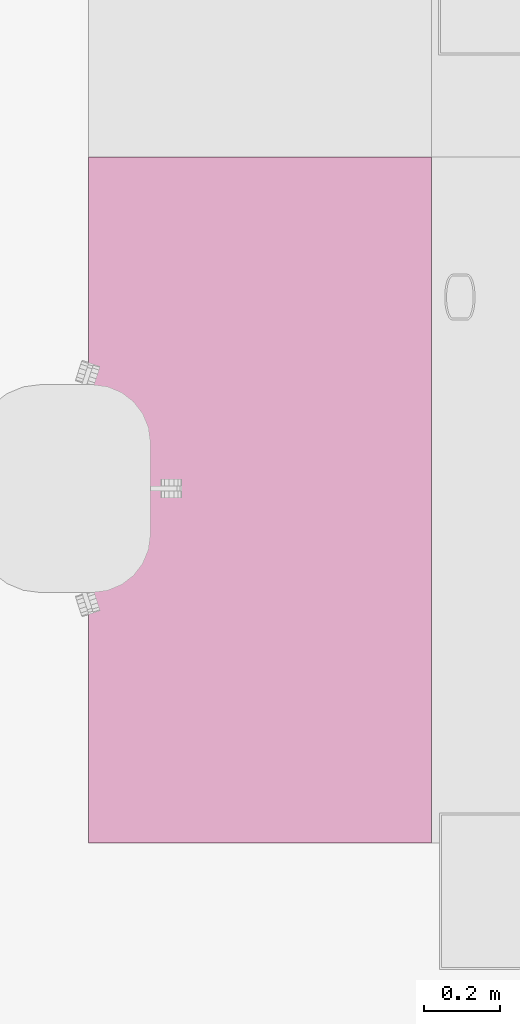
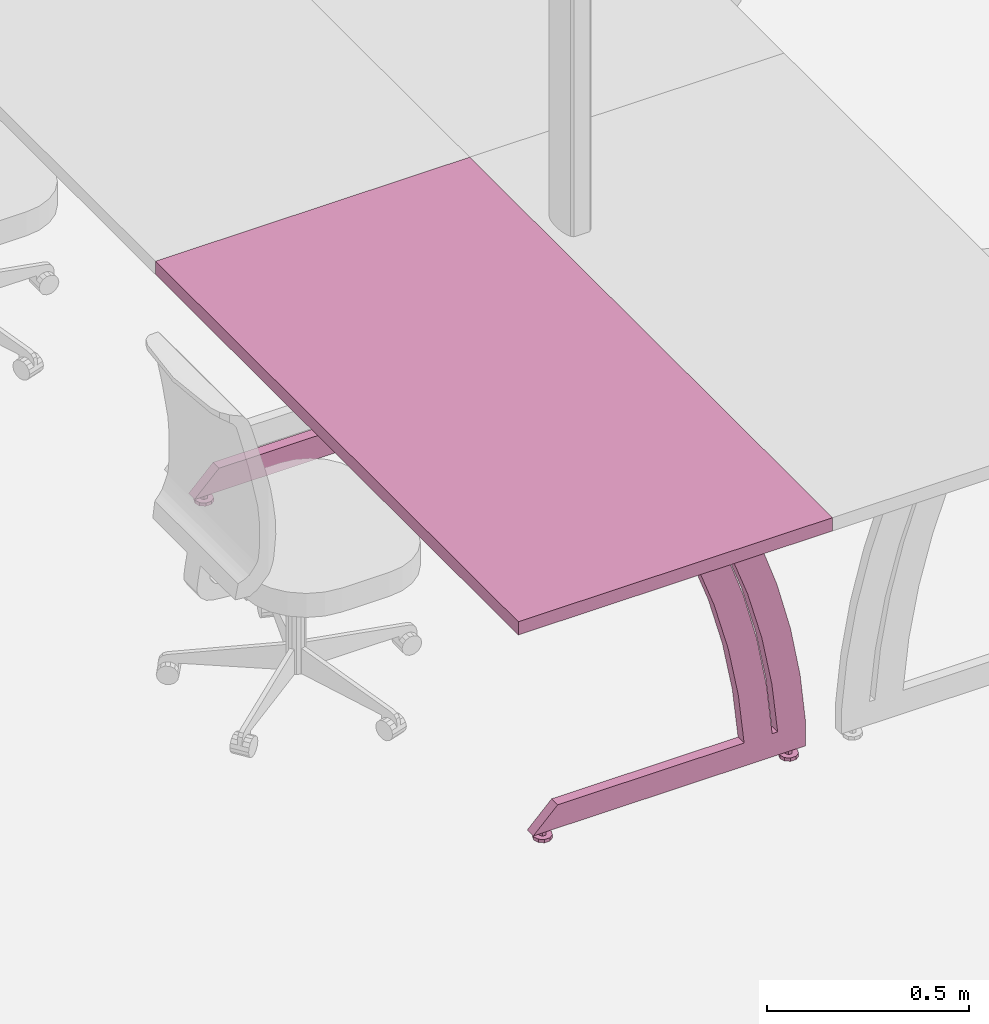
# One storey, part 99 of 128: 1 furnishing.
"""IFC2X3 building model written with IfcOpenShell, lengths in metres."""

from ifc_helpers import new_model, entity, si_unit, converted_unit, derived_unit, direction, frame, origin, place, context, subcontext, project, spatial, faceted_brep, source, transform, mapped, material, type_object, type_shapes, element, save


model = new_model("IFC2X3")

# Units and contexts
model_context = context("Model", 3, precision=1e-05, world=origin(), true_north=direction((6.123031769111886e-17, 1.0)))
body_context = subcontext(model_context, "Body", "Model", "MODEL_VIEW")
ifc_project = project(units=[si_unit("LENGTHUNIT", "METRE"), si_unit("AREAUNIT", "SQUARE_METRE"), converted_unit("PLANEANGLEUNIT", "DEGREE", entity("IfcPlaneAngleMeasure", 0.017453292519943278), si_unit("PLANEANGLEUNIT", "RADIAN"), dimensions=[0, 0, 0, 0, 0, 0, 0]), derived_unit("THERMALTRANSMITTANCEUNIT", [(si_unit("MASSUNIT", "GRAM", prefix="KILO"), 1), (si_unit("THERMODYNAMICTEMPERATUREUNIT", "KELVIN"), -1), (si_unit("TIMEUNIT", "SECOND"), -3)])], contexts=[model_context])

# Site, building, storey
site_placement = place(None, origin())
site = spatial("IfcSite", under=ifc_project, at=site_placement, Name="Default", CompositionType="ELEMENT")
building_placement = place(site_placement, origin())
building = spatial("IfcBuilding", under=site, at=building_placement, CompositionType="ELEMENT")
storey_placement = place(building_placement, origin())
storey = spatial("IfcBuildingStorey", under=building, at=storey_placement, Name="00_RDC CAF", CompositionType="ELEMENT", Elevation=2.4982504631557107e-13)

# Furnishing
ifc_material = material(Name="ARC - Mo - Blanc")
furniture_type = type_object("IfcFurnitureType", Name="Mo_Bureau:Mo_Bureau_1800x900mm", AssemblyPlace="NOTDEFINED", material=ifc_material)
shared_shape = source(origin(), body_context, "Body", "Brep", [
    faceted_brep([(0.05999999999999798, -0.7962325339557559, 0.0), (0.03622358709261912, -0.7885071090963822, 0.0), (0.0407644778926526, -0.7822571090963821, 0.0), (0.045305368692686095, -0.7760071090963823, 0.0), (0.05265268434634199, -0.7736198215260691, 0.0), (0.05999999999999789, -0.7712325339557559, 0.0), (0.0673473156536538, -0.7736198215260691, 0.0), (0.03622358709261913, -0.7962325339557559, 0.0), (0.03622358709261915, -0.8039579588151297, 0.0), (0.040764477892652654, -0.8102079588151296, 0.0), (0.04530536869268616, -0.8164579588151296, 0.0), (0.052652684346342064, -0.8188452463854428, 0.0), (0.05999999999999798, -0.8212325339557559, 0.0), (0.07469463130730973, -0.7760071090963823, 0.0), (0.07923552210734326, -0.7822571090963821, 0.0), (0.08377641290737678, -0.7885071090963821, 0.0), (0.08377641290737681, -0.7962325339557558, 0.0), (0.06734731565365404, -0.8188452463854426, 0.0), (0.07469463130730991, -0.8164579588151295, 0.0), (0.0792355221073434, -0.8102079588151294, 0.0), (0.08377641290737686, -0.8039579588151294, 0.0), (0.05999999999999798, -0.7962325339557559, 0.024999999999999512), (0.059999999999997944, -0.7862325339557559, 0.024999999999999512), (0.05133974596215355, -0.791232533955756, 0.024999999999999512), (0.05133974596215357, -0.801232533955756, 0.024999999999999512), (0.05999999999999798, -0.8062325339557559, 0.024999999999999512), (0.06866025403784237, -0.7912325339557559, 0.024999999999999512), (0.06866025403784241, -0.8012325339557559, 0.024999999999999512), (0.05133974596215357, -0.801232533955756, 0.01000000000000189), (0.05999999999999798, -0.8062325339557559, 0.01000000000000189), (0.05133974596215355, -0.791232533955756, 0.01000000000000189), (0.05999999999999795, -0.7862325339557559, 0.01000000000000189), (0.06866025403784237, -0.7912325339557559, 0.01000000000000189), (0.06866025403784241, -0.8012325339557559, 0.01000000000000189), (0.0599999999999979, -0.7712325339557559, 0.01000000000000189), (0.05554606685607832, -0.77267970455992, 0.01000000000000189), (0.05109213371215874, -0.774126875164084, 0.01000000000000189), (0.045305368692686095, -0.7760071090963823, 0.01000000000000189), (0.0673473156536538, -0.7736198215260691, 0.01000000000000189), (0.07469463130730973, -0.7760071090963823, 0.01000000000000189), (0.07923552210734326, -0.7822571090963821, 0.01000000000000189), (0.08377641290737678, -0.7885071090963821, 0.01000000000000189), (0.08377641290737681, -0.7962325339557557, 0.01000000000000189), (0.08377641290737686, -0.8039579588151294, 0.01000000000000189), (0.0792355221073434, -0.8102079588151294, 0.01000000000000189), (0.07469463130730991, -0.8164579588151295, 0.01000000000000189), (0.0689078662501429, -0.8183381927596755, 0.01000000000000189), (0.06445393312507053, -0.8197853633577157, 0.01000000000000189), (0.05999999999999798, -0.8212325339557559, 0.01000000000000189), (0.052652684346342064, -0.8188452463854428, 0.01000000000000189), (0.04530536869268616, -0.8164579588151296, 0.01000000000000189), (0.03622358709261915, -0.8039579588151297, 0.01000000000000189), (0.040764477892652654, -0.8102079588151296, 0.01000000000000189), (0.04076447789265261, -0.7822571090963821, 0.01000000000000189), (0.03622358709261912, -0.7885071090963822, 0.01000000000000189), (0.03622358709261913, -0.7962325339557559, 0.01000000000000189)], [[[0, 1, 2]], [[0, 2, 3]], [[0, 3, 4]], [[0, 4, 5]], [[0, 5, 6]], [[0, 7, 1]], [[0, 8, 7]], [[0, 9, 8]], [[0, 10, 9]], [[0, 11, 10]], [[0, 12, 11]], [[0, 6, 13]], [[0, 13, 14]], [[0, 14, 15]], [[0, 15, 16]], [[0, 17, 12]], [[0, 18, 17]], [[0, 19, 18]], [[0, 20, 19]], [[0, 16, 20]], [[21, 22, 23]], [[23, 24, 21]], [[24, 25, 21]], [[21, 26, 22]], [[25, 27, 21]], [[26, 21, 27]], [[25, 24, 28, 29]], [[24, 23, 30, 28]], [[23, 22, 31, 30]], [[22, 26, 32, 31]], [[26, 27, 33, 32]], [[27, 25, 29, 33]], [[31, 34, 35]], [[31, 35, 36]], [[31, 36, 37]], [[31, 37, 30]], [[31, 38, 34]], [[31, 39, 38]], [[32, 39, 31]], [[32, 40, 39]], [[32, 41, 40]], [[32, 42, 41]], [[32, 43, 42]], [[32, 33, 43]], [[33, 44, 43]], [[33, 45, 44]], [[33, 29, 45]], [[29, 46, 45]], [[29, 47, 46]], [[29, 48, 47]], [[29, 49, 48]], [[29, 50, 49]], [[29, 28, 50]], [[30, 51, 28]], [[28, 51, 52]], [[28, 52, 50]], [[30, 37, 53]], [[30, 53, 54]], [[30, 54, 55]], [[30, 55, 51]], [[11, 12, 48, 49, 50, 10]], [[8, 9, 10, 50, 52, 51]], [[7, 8, 51, 55, 54, 1]], [[3, 37, 36, 35, 34, 5, 4]], [[54, 53, 37, 3, 2, 1]], [[6, 5, 34, 38, 39, 13]], [[15, 14, 13, 39, 40, 41]], [[16, 15, 41, 42, 43, 20]], [[18, 45, 46, 47, 48, 12, 17]], [[43, 44, 45, 18, 19, 20]]]),
    faceted_brep([(0.05999999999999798, -0.09132706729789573, 0.0), (0.03622358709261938, -0.0836016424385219, 0.0), (0.04076447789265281, -0.07735164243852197, 0.0), (0.04530536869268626, -0.07110164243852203, 0.0), (0.052652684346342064, -0.06871435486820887, 0.0), (0.05999999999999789, -0.06632706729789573, 0.0), (0.06734731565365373, -0.06871435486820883, 0.0), (0.03622358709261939, -0.0913270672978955, 0.0), (0.0362235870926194, -0.09905249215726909, 0.0), (0.04076447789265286, -0.10530249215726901, 0.0), (0.04530536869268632, -0.11155249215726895, 0.0), (0.05265268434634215, -0.11393977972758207, 0.0), (0.05999999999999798, -0.11632706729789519, 0.0), (0.07469463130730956, -0.07110164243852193, 0.0), (0.07923552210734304, -0.07735164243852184, 0.0), (0.08377641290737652, -0.08360164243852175, 0.0), (0.08377641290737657, -0.09132706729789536, 0.0), (0.06734731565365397, -0.113939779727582, 0.0), (0.07469463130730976, -0.11155249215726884, 0.0), (0.07923552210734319, -0.10530249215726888, 0.0), (0.0837764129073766, -0.09905249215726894, 0.0), (0.05999999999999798, -0.09132706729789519, 0.024999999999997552), (0.059999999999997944, -0.0813270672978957, 0.024999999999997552), (0.051339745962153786, -0.08632706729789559, 0.024999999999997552), (0.05133974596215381, -0.09632706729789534, 0.024999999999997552), (0.05999999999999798, -0.10132706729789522, 0.024999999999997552), (0.06866025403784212, -0.08632706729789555, 0.024999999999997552), (0.06866025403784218, -0.09632706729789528, 0.024999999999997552), (0.05133974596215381, -0.09632706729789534, 0.009999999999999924), (0.05999999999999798, -0.10132706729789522, 0.009999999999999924), (0.051339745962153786, -0.08632706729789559, 0.009999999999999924), (0.05999999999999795, -0.0813270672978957, 0.009999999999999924), (0.06866025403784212, -0.08632706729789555, 0.009999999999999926), (0.06866025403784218, -0.09632706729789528, 0.009999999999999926), (0.05999999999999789, -0.06632706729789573, 0.009999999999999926), (0.055546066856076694, -0.06777423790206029, 0.009999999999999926), (0.051092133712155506, -0.06922140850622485, 0.009999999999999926), (0.04530536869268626, -0.07110164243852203, 0.009999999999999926), (0.06734731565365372, -0.06871435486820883, 0.009999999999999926), (0.07469463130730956, -0.07110164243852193, 0.009999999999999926), (0.07923552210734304, -0.07735164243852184, 0.009999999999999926), (0.08377641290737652, -0.08360164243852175, 0.009999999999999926), (0.08377641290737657, -0.09132706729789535, 0.009999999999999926), (0.0837764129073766, -0.09905249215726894, 0.009999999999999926), (0.07923552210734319, -0.10530249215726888, 0.009999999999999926), (0.07469463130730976, -0.11155249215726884, 0.009999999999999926), (0.06890786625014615, -0.11343272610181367, 0.009999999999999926), (0.06445393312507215, -0.11487989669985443, 0.009999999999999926), (0.05999999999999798, -0.11632706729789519, 0.009999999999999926), (0.05265268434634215, -0.11393977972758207, 0.009999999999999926), (0.04530536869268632, -0.11155249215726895, 0.009999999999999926), (0.0362235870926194, -0.09905249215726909, 0.009999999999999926), (0.04076447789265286, -0.10530249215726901, 0.009999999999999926), (0.04076447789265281, -0.07735164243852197, 0.009999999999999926), (0.03622358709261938, -0.0836016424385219, 0.009999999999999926), (0.03622358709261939, -0.0913270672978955, 0.009999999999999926)], [[[0, 1, 2]], [[0, 2, 3]], [[0, 3, 4]], [[0, 4, 5]], [[0, 5, 6]], [[0, 7, 1]], [[0, 8, 7]], [[0, 9, 8]], [[0, 10, 9]], [[0, 11, 10]], [[0, 12, 11]], [[0, 6, 13]], [[0, 13, 14]], [[0, 14, 15]], [[0, 15, 16]], [[0, 17, 12]], [[0, 18, 17]], [[0, 19, 18]], [[0, 20, 19]], [[0, 16, 20]], [[21, 22, 23]], [[23, 24, 21]], [[24, 25, 21]], [[21, 26, 22]], [[25, 27, 21]], [[26, 21, 27]], [[25, 24, 28, 29]], [[24, 23, 30, 28]], [[23, 22, 31, 30]], [[22, 26, 32, 31]], [[26, 27, 33, 32]], [[27, 25, 29, 33]], [[31, 34, 35]], [[31, 35, 36]], [[31, 36, 37]], [[31, 37, 30]], [[31, 38, 34]], [[31, 39, 38]], [[32, 39, 31]], [[32, 40, 39]], [[32, 41, 40]], [[32, 42, 41]], [[32, 43, 42]], [[32, 33, 43]], [[33, 44, 43]], [[33, 45, 44]], [[33, 29, 45]], [[29, 46, 45]], [[29, 47, 46]], [[29, 48, 47]], [[29, 49, 48]], [[29, 50, 49]], [[29, 28, 50]], [[30, 51, 28]], [[28, 51, 52]], [[28, 52, 50]], [[30, 37, 53]], [[30, 53, 54]], [[30, 54, 55]], [[30, 55, 51]], [[11, 12, 48, 49, 50, 10]], [[8, 9, 10, 50, 52, 51]], [[7, 8, 51, 55, 54, 1]], [[3, 37, 36, 35, 34, 5, 4]], [[54, 53, 37, 3, 2, 1]], [[6, 5, 34, 38, 39, 13]], [[15, 14, 13, 39, 40, 41]], [[16, 15, 41, 42, 43, 20]], [[18, 45, 46, 47, 48, 12, 17]], [[43, 44, 45, 18, 19, 20]]]),
    faceted_brep([(0.04499999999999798, -0.22742160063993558, 0.0950000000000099), (0.04499999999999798, -0.24409269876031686, 0.24614112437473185), (0.04499999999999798, -0.27271442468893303, 0.3954808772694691), (0.04499999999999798, -0.3131059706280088, 0.5420758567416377), (0.04499999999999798, -0.3650121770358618, 0.6849999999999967), (0.04499999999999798, -0.2788721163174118, 0.6849999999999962), (0.04499999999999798, -0.2291924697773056, 0.5416912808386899), (0.04499999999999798, -0.1905543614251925, 0.39501969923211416), (0.04499999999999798, -0.16318154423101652, 0.245834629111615), (0.04499999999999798, -0.14723253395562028, 0.09500000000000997), (0.07499999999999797, -0.3650121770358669, 0.6850000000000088), (0.07499999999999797, -0.3131059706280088, 0.5420758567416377), (0.07499999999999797, -0.27271442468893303, 0.3954808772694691), (0.07499999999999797, -0.24409269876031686, 0.24614112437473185), (0.07499999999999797, -0.22742160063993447, 0.09499999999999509), (0.07499999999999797, -0.14723253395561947, 0.0949999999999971), (0.07499999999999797, -0.16318154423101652, 0.245834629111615), (0.07499999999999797, -0.1905543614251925, 0.39501969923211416), (0.07499999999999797, -0.2291924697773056, 0.5416912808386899), (0.07499999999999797, -0.27887211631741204, 0.6849999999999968)], [[[0, 1, 2, 3, 4, 5, 6, 7, 8, 9]], [[10, 11, 12, 13, 14, 15, 16, 17, 18, 19]], [[10, 19, 5, 4]], [[3, 11, 10, 4]], [[2, 12, 11, 3]], [[0, 14, 13, 1]], [[12, 2, 1, 13]], [[15, 14, 0, 9]], [[8, 7, 17, 16]], [[15, 9, 8, 16]], [[6, 5, 19, 18]], [[6, 18, 17, 7]]]),
    faceted_brep([(0.04499999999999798, -0.13142160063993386, 0.09500000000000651), (0.04499999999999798, -0.14809269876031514, 0.24614112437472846), (0.04499999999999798, -0.1767144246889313, 0.39548087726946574), (0.04499999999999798, -0.21710597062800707, 0.5420758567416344), (0.04499999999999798, -0.26901217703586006, 0.6849999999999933), (0.04499999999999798, -0.18287211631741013, 0.6849999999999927), (0.04499999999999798, -0.13319246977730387, 0.5416912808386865), (0.04499999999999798, -0.09455436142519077, 0.3950196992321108), (0.04499999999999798, -0.0671815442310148, 0.2458346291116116), (0.04499999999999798, -0.05123253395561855, 0.09500000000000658), (0.07499999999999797, -0.2690121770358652, 0.6850000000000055), (0.07499999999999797, -0.21710597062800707, 0.5420758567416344), (0.07499999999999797, -0.1767144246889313, 0.39548087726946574), (0.07499999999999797, -0.14809269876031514, 0.24614112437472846), (0.07499999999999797, -0.1314216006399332, 0.09499999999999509), (0.07499999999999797, -0.05123253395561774, 0.09499999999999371), (0.07499999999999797, -0.0671815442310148, 0.2458346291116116), (0.07499999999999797, -0.09455436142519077, 0.3950196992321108), (0.07499999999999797, -0.13319246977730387, 0.5416912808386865), (0.07499999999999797, -0.18287211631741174, 0.684999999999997)], [[[0, 1, 2, 3, 4, 5, 6, 7, 8, 9]], [[10, 11, 12, 13, 14, 15, 16, 17, 18, 19]], [[10, 19, 5, 4]], [[3, 11, 10, 4]], [[2, 12, 11, 3]], [[0, 14, 13, 1]], [[12, 2, 1, 13]], [[15, 14, 0, 9]], [[8, 7, 17, 16]], [[15, 9, 8, 16]], [[6, 5, 19, 18]], [[6, 18, 17, 7]]]),
    faceted_brep([(0.04499999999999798, -0.0512325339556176, 0.0249999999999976), (0.04499999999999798, -0.8312325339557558, 0.0249999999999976), (0.04499999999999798, -0.7612325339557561, 0.09499999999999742), (0.04499999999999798, -0.05123253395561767, 0.09499999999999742), (0.07499999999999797, -0.0512325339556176, 0.0249999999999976), (0.07499999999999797, -0.05123253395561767, 0.09499999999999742), (0.07499999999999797, -0.7612325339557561, 0.09499999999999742), (0.07499999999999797, -0.8312325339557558, 0.0249999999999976)], [[[0, 1, 2, 3]], [[4, 5, 6, 7]], [[5, 4, 0, 3]], [[6, 5, 3, 2]], [[4, 7, 1, 0]], [[7, 6, 2, 1]]]),
    faceted_brep([(1.7399999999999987, -0.7962325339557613, 0.0), (1.71622358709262, -0.7885071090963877, 0.0), (1.7207644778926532, -0.7822571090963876, 0.0), (1.7253053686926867, -0.7760071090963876, 0.0), (1.7326526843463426, -0.7736198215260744, 0.0), (1.7399999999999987, -0.7712325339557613, 0.0), (1.7473473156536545, -0.7736198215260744, 0.0), (1.71622358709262, -0.7962325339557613, 0.0), (1.71622358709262, -0.803957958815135, 0.0), (1.7207644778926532, -0.8102079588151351, 0.0), (1.725305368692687, -0.816457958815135, 0.0), (1.7326526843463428, -0.8188452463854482, 0.0), (1.7399999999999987, -0.8212325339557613, 0.0), (1.7546946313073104, -0.7760071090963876, 0.0), (1.759235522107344, -0.7822571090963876, 0.0), (1.7637764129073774, -0.7885071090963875, 0.0), (1.7637764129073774, -0.7962325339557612, 0.0), (1.7473473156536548, -0.8188452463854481, 0.0), (1.7546946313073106, -0.8164579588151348, 0.0), (1.759235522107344, -0.8102079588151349, 0.0), (1.7637764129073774, -0.8039579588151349, 0.0), (1.7399999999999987, -0.7962325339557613, 0.024999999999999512), (1.7399999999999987, -0.7862325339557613, 0.024999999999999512), (1.731339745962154, -0.7912325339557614, 0.024999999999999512), (1.731339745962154, -0.8012325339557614, 0.024999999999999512), (1.7399999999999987, -0.8062325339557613, 0.024999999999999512), (1.748660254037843, -0.7912325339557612, 0.024999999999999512), (1.748660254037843, -0.8012325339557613, 0.024999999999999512), (1.731339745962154, -0.8012325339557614, 0.01000000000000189), (1.7399999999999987, -0.8062325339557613, 0.01000000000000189), (1.731339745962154, -0.7912325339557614, 0.01000000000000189), (1.7399999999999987, -0.7862325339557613, 0.01000000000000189), (1.748660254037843, -0.7912325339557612, 0.01000000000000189), (1.748660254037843, -0.8012325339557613, 0.01000000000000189), (1.7399999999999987, -0.7712325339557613, 0.01000000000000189), (1.735546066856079, -0.7726797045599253, 0.01000000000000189), (1.7310921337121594, -0.7741268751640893, 0.01000000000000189), (1.7253053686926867, -0.7760071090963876, 0.01000000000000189), (1.7473473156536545, -0.7736198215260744, 0.01000000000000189), (1.7546946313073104, -0.7760071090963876, 0.01000000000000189), (1.759235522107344, -0.7822571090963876, 0.01000000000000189), (1.7637764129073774, -0.7885071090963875, 0.01000000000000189), (1.7637764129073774, -0.7962325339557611, 0.01000000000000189), (1.7637764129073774, -0.8039579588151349, 0.01000000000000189), (1.759235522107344, -0.8102079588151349, 0.01000000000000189), (1.7546946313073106, -0.8164579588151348, 0.01000000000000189), (1.7489078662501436, -0.8183381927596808, 0.01000000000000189), (1.744453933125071, -0.8197853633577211, 0.01000000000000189), (1.7399999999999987, -0.8212325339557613, 0.01000000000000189), (1.7326526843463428, -0.8188452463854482, 0.01000000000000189), (1.725305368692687, -0.816457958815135, 0.01000000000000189), (1.71622358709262, -0.803957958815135, 0.01000000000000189), (1.7207644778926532, -0.8102079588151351, 0.01000000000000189), (1.7207644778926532, -0.7822571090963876, 0.01000000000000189), (1.71622358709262, -0.7885071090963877, 0.01000000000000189), (1.71622358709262, -0.7962325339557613, 0.01000000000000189)], [[[0, 1, 2]], [[0, 2, 3]], [[0, 3, 4]], [[0, 4, 5]], [[0, 5, 6]], [[0, 7, 1]], [[0, 8, 7]], [[0, 9, 8]], [[0, 10, 9]], [[0, 11, 10]], [[0, 12, 11]], [[0, 6, 13]], [[0, 13, 14]], [[0, 14, 15]], [[0, 15, 16]], [[0, 17, 12]], [[0, 18, 17]], [[0, 19, 18]], [[0, 20, 19]], [[0, 16, 20]], [[21, 22, 23]], [[23, 24, 21]], [[24, 25, 21]], [[21, 26, 22]], [[25, 27, 21]], [[26, 21, 27]], [[25, 24, 28, 29]], [[24, 23, 30, 28]], [[23, 22, 31, 30]], [[22, 26, 32, 31]], [[26, 27, 33, 32]], [[27, 25, 29, 33]], [[31, 34, 35]], [[31, 35, 36]], [[31, 36, 37]], [[31, 37, 30]], [[31, 38, 34]], [[31, 39, 38]], [[32, 39, 31]], [[32, 40, 39]], [[32, 41, 40]], [[32, 42, 41]], [[32, 43, 42]], [[32, 33, 43]], [[33, 44, 43]], [[33, 45, 44]], [[33, 29, 45]], [[29, 46, 45]], [[29, 47, 46]], [[29, 48, 47]], [[29, 49, 48]], [[29, 50, 49]], [[29, 28, 50]], [[30, 51, 28]], [[28, 51, 52]], [[28, 52, 50]], [[30, 37, 53]], [[30, 53, 54]], [[30, 54, 55]], [[30, 55, 51]], [[11, 12, 48, 49, 50, 10]], [[8, 9, 10, 50, 52, 51]], [[7, 8, 51, 55, 54, 1]], [[3, 37, 36, 35, 34, 5, 4]], [[54, 53, 37, 3, 2, 1]], [[6, 5, 34, 38, 39, 13]], [[15, 14, 13, 39, 40, 41]], [[16, 15, 41, 42, 43, 20]], [[18, 45, 46, 47, 48, 12, 17]], [[43, 44, 45, 18, 19, 20]]]),
    faceted_brep([(1.7399999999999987, -0.09132706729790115, 0.0), (1.7162235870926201, -0.08360164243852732, 0.0), (1.7207644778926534, -0.07735164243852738, 0.0), (1.725305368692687, -0.07110164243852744, 0.0), (1.7326526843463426, -0.06871435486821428, 0.0), (1.7399999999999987, -0.06632706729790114, 0.0), (1.7473473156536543, -0.06871435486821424, 0.0), (1.7162235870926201, -0.09132706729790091, 0.0), (1.7162235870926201, -0.0990524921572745, 0.0), (1.7207644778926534, -0.10530249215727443, 0.0), (1.725305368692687, -0.11155249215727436, 0.0), (1.7326526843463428, -0.11393977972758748, 0.0), (1.7399999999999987, -0.1163270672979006, 0.0), (1.7546946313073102, -0.07110164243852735, 0.0), (1.7592355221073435, -0.07735164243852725, 0.0), (1.7637764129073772, -0.08360164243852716, 0.0), (1.7637764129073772, -0.09132706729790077, 0.0), (1.7473473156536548, -0.11393977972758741, 0.0), (1.7546946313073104, -0.11155249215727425, 0.0), (1.7592355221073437, -0.10530249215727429, 0.0), (1.7637764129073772, -0.09905249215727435, 0.0), (1.7399999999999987, -0.0913270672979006, 0.024999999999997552), (1.7399999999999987, -0.08132706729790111, 0.024999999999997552), (1.7313397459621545, -0.08632706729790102, 0.024999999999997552), (1.7313397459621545, -0.09632706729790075, 0.024999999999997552), (1.7399999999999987, -0.10132706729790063, 0.024999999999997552), (1.7486602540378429, -0.08632706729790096, 0.024999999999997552), (1.7486602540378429, -0.0963270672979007, 0.024999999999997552), (1.7313397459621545, -0.09632706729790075, 0.009999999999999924), (1.7399999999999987, -0.10132706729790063, 0.009999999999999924), (1.7313397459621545, -0.08632706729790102, 0.009999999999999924), (1.7399999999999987, -0.08132706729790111, 0.009999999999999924), (1.7486602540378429, -0.08632706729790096, 0.009999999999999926), (1.7486602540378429, -0.0963270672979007, 0.009999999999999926), (1.7399999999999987, -0.06632706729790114, 0.009999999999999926), (1.7355460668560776, -0.0677742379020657, 0.009999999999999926), (1.7310921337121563, -0.06922140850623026, 0.009999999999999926), (1.725305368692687, -0.07110164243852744, 0.009999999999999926), (1.7473473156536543, -0.06871435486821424, 0.009999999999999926), (1.7546946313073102, -0.07110164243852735, 0.009999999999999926), (1.7592355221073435, -0.07735164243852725, 0.009999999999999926), (1.7637764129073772, -0.08360164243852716, 0.009999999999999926), (1.7637764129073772, -0.09132706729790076, 0.009999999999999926), (1.7637764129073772, -0.09905249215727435, 0.009999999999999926), (1.7592355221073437, -0.10530249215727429, 0.009999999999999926), (1.7546946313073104, -0.11155249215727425, 0.009999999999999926), (1.7489078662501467, -0.11343272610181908, 0.009999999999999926), (1.7444539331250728, -0.11487989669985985, 0.009999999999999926), (1.7399999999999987, -0.1163270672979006, 0.009999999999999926), (1.7326526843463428, -0.11393977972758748, 0.009999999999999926), (1.725305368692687, -0.11155249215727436, 0.009999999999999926), (1.7162235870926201, -0.0990524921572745, 0.009999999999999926), (1.7207644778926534, -0.10530249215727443, 0.009999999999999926), (1.7207644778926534, -0.07735164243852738, 0.009999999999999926), (1.7162235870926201, -0.08360164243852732, 0.009999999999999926), (1.7162235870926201, -0.09132706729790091, 0.009999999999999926)], [[[0, 1, 2]], [[0, 2, 3]], [[0, 3, 4]], [[0, 4, 5]], [[0, 5, 6]], [[0, 7, 1]], [[0, 8, 7]], [[0, 9, 8]], [[0, 10, 9]], [[0, 11, 10]], [[0, 12, 11]], [[0, 6, 13]], [[0, 13, 14]], [[0, 14, 15]], [[0, 15, 16]], [[0, 17, 12]], [[0, 18, 17]], [[0, 19, 18]], [[0, 20, 19]], [[0, 16, 20]], [[21, 22, 23]], [[23, 24, 21]], [[24, 25, 21]], [[21, 26, 22]], [[25, 27, 21]], [[26, 21, 27]], [[25, 24, 28, 29]], [[24, 23, 30, 28]], [[23, 22, 31, 30]], [[22, 26, 32, 31]], [[26, 27, 33, 32]], [[27, 25, 29, 33]], [[31, 34, 35]], [[31, 35, 36]], [[31, 36, 37]], [[31, 37, 30]], [[31, 38, 34]], [[31, 39, 38]], [[32, 39, 31]], [[32, 40, 39]], [[32, 41, 40]], [[32, 42, 41]], [[32, 43, 42]], [[32, 33, 43]], [[33, 44, 43]], [[33, 45, 44]], [[33, 29, 45]], [[29, 46, 45]], [[29, 47, 46]], [[29, 48, 47]], [[29, 49, 48]], [[29, 50, 49]], [[29, 28, 50]], [[30, 51, 28]], [[28, 51, 52]], [[28, 52, 50]], [[30, 37, 53]], [[30, 53, 54]], [[30, 54, 55]], [[30, 55, 51]], [[11, 12, 48, 49, 50, 10]], [[8, 9, 10, 50, 52, 51]], [[7, 8, 51, 55, 54, 1]], [[3, 37, 36, 35, 34, 5, 4]], [[54, 53, 37, 3, 2, 1]], [[6, 5, 34, 38, 39, 13]], [[15, 14, 13, 39, 40, 41]], [[16, 15, 41, 42, 43, 20]], [[18, 45, 46, 47, 48, 12, 17]], [[43, 44, 45, 18, 19, 20]]]),
    faceted_brep([(1.7249999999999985, -0.22742160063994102, 0.0950000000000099), (1.7249999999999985, -0.24409269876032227, 0.24614112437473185), (1.7249999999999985, -0.2727144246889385, 0.3954808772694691), (1.7249999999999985, -0.3131059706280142, 0.5420758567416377), (1.7249999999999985, -0.3650121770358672, 0.6849999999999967), (1.7249999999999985, -0.27887211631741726, 0.6849999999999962), (1.7249999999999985, -0.229192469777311, 0.5416912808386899), (1.7249999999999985, -0.1905543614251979, 0.39501969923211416), (1.7249999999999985, -0.16318154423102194, 0.245834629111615), (1.7249999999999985, -0.1472325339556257, 0.09500000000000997), (1.7549999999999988, -0.36501217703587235, 0.6850000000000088), (1.7549999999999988, -0.3131059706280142, 0.5420758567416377), (1.7549999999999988, -0.2727144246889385, 0.3954808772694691), (1.7549999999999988, -0.24409269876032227, 0.24614112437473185), (1.7549999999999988, -0.22742160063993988, 0.09499999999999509), (1.7549999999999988, -0.14723253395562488, 0.0949999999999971), (1.7549999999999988, -0.16318154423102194, 0.245834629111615), (1.7549999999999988, -0.1905543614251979, 0.39501969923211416), (1.7549999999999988, -0.229192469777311, 0.5416912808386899), (1.7549999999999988, -0.2788721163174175, 0.6849999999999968)], [[[0, 1, 2, 3, 4, 5, 6, 7, 8, 9]], [[10, 11, 12, 13, 14, 15, 16, 17, 18, 19]], [[10, 19, 5, 4]], [[3, 11, 10, 4]], [[2, 12, 11, 3]], [[0, 14, 13, 1]], [[12, 2, 1, 13]], [[15, 14, 0, 9]], [[8, 7, 17, 16]], [[15, 9, 8, 16]], [[6, 5, 19, 18]], [[6, 18, 17, 7]]]),
    faceted_brep([(1.7249999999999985, -0.13142160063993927, 0.09500000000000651), (1.7249999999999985, -0.14809269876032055, 0.24614112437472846), (1.7249999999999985, -0.17671442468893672, 0.39548087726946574), (1.7249999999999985, -0.2171059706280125, 0.5420758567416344), (1.7249999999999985, -0.2690121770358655, 0.6849999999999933), (1.7249999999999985, -0.18287211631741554, 0.6849999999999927), (1.7249999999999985, -0.13319246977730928, 0.5416912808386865), (1.7249999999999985, -0.09455436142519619, 0.3950196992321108), (1.7249999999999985, -0.06718154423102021, 0.2458346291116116), (1.7249999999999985, -0.051232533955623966, 0.09500000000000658), (1.7549999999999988, -0.2690121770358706, 0.6850000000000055), (1.7549999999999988, -0.2171059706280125, 0.5420758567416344), (1.7549999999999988, -0.17671442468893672, 0.39548087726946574), (1.7549999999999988, -0.14809269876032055, 0.24614112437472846), (1.7549999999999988, -0.1314216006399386, 0.09499999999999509), (1.7549999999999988, -0.051232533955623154, 0.09499999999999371), (1.7549999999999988, -0.06718154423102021, 0.2458346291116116), (1.7549999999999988, -0.09455436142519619, 0.3950196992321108), (1.7549999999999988, -0.13319246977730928, 0.5416912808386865), (1.7549999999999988, -0.18287211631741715, 0.684999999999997)], [[[0, 1, 2, 3, 4, 5, 6, 7, 8, 9]], [[10, 11, 12, 13, 14, 15, 16, 17, 18, 19]], [[10, 19, 5, 4]], [[3, 11, 10, 4]], [[2, 12, 11, 3]], [[0, 14, 13, 1]], [[12, 2, 1, 13]], [[15, 14, 0, 9]], [[8, 7, 17, 16]], [[15, 9, 8, 16]], [[6, 5, 19, 18]], [[6, 18, 17, 7]]]),
    faceted_brep([(1.7249999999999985, -0.051232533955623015, 0.0249999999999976), (1.7249999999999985, -0.8312325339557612, 0.0249999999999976), (1.7249999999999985, -0.7612325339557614, 0.09499999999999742), (1.7249999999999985, -0.051232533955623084, 0.09499999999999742), (1.7549999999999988, -0.051232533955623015, 0.0249999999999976), (1.7549999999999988, -0.051232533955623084, 0.09499999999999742), (1.7549999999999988, -0.7612325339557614, 0.09499999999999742), (1.7549999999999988, -0.8312325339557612, 0.0249999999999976)], [[[0, 1, 2, 3]], [[4, 5, 6, 7]], [[5, 4, 0, 3]], [[6, 5, 3, 2]], [[4, 7, 1, 0]], [[7, 6, 2, 1]]]),
    faceted_brep([(0.0, -0.8999999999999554, 0.685), (0.0, 0.0, 0.685), (1.7999999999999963, 0.0, 0.6849999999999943), (1.7999999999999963, -0.8999999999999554, 0.6849999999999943), (0.0, -0.8999999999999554, 0.7250000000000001), (1.7999999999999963, -0.8999999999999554, 0.7249999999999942), (1.7999999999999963, 0.0, 0.7249999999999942), (0.0, 0.0, 0.7250000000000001)], [[[0, 1, 2, 3]], [[4, 5, 6, 7]], [[5, 4, 0, 3]], [[6, 5, 3, 2]], [[7, 6, 2, 1]], [[4, 7, 1, 0]]]),
])
type_shapes(furniture_type, [shared_shape])
furnishing_placement = place(storey_placement, frame((36.58029972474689, 134.17278506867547, 0.0), z_axis=(0.0, 0.0, 1.0), x_axis=(0.0, -1.0, 0.0)))
element("IfcFurnishingElement", 1, at=furnishing_placement, inside=storey, type_object=furniture_type, material=ifc_material, Name="Mo_Bureau:Mo_Bureau_1800x900mm", ObjectType="Mo_Bureau:Mo_Bureau_1800x900mm", context=body_context, shape_type="MappedRepresentation", body=[
    mapped(shared_shape, transform((0.0, 0.0, 0.0), scale=1.0)),
])

save(model, "model.ifc")
